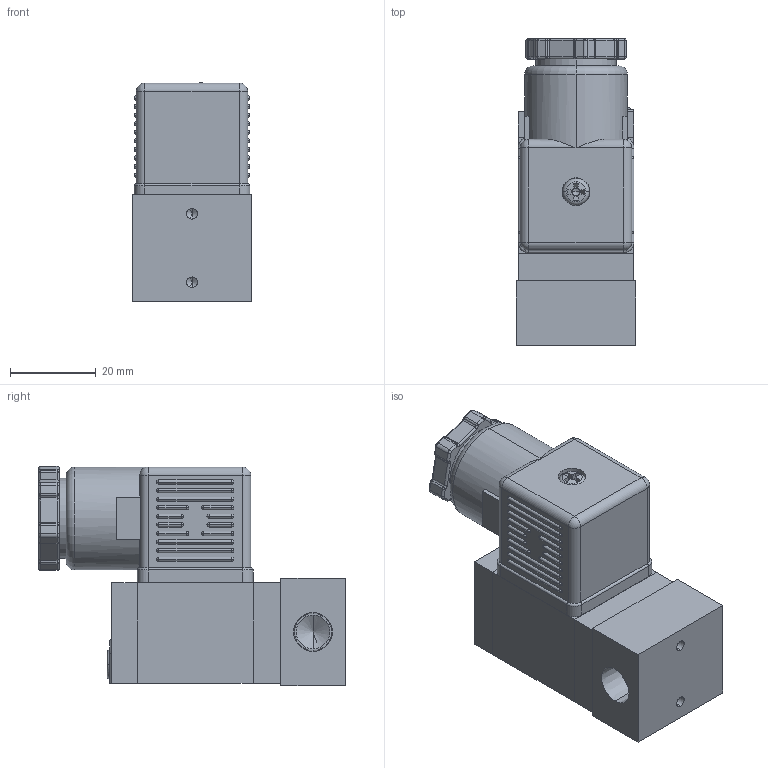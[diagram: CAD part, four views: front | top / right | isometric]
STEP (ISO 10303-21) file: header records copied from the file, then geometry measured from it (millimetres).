
FILE_DESCRIPTION (( 'STEP AP203' ), '1' );
FILE_NAME ('SS231-01-#C#.STEP', '2016-08-01T03:11:29', ( '' ), ( '' ), 'SwSTEP 2.0', 'SolidWorks 2014', '' );
FILE_SCHEMA (( 'CONFIG_CONTROL_DESIGN' ));
Length unit declared in the file: millimetre
Products named in the file (10): SS231-C; PCS2406-9; PCS2406-8; SS231-1; PCS2406-7; PC6-M4; PC6-M3; SS231-01-#C#
Assembly tree (10 placements, depth 3):
  SS231-01-#C#
    (unnamed)
    SS231-1
    SS231-C
      PCS2406-7
      PCS2406-8
      PCS2406-9
      PC6-M3  x2
      PC6-M4
      SS231-C
Bounding box: 28 x 71.5 x 51.14 mm (x, y, z)
Volume: 60532.1 mm3; surface area: 19689.1 mm2
Topology: 9 solids, 9 shells, 577 faces, 1428 edges, 775 vertices
Faces by surface type: cylinder 177, sphere 152, plane 143, torus 66, cone 39
Entity records: 16194 total; most frequent: DIRECTION 3026, CARTESIAN_POINT 2569, ORIENTED_EDGE 2400, AXIS2_PLACEMENT_3D 1289, EDGE_CURVE 1200, CIRCLE 732, VERTEX_POINT 716, EDGE_LOOP 588
